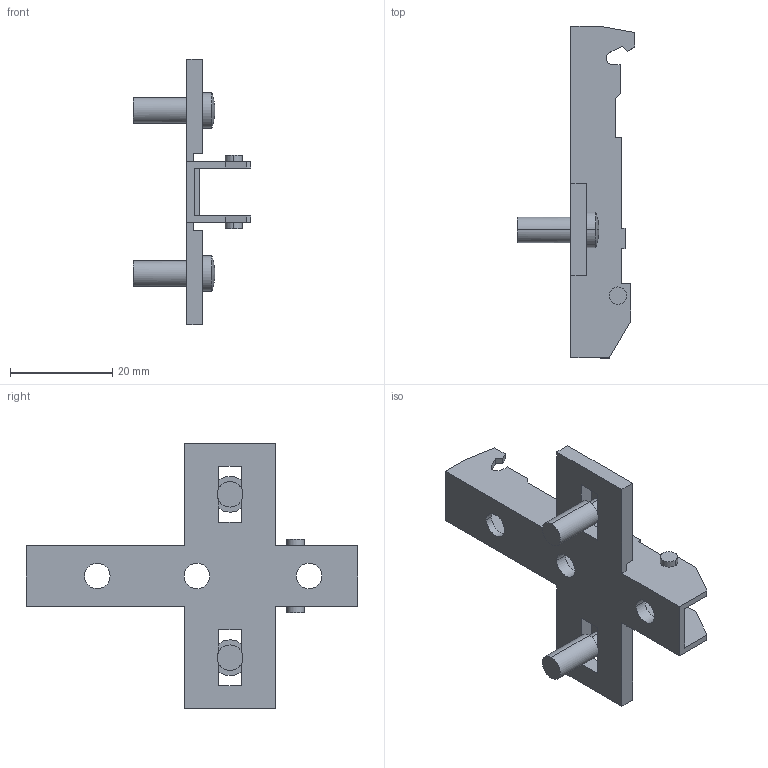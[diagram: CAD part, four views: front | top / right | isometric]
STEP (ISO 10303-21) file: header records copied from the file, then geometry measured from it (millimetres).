
FILE_DESCRIPTION (( 'STEP AP214' ), '1' );
FILE_NAME ('Eco Kreuzmontageplatte LR37_32_Dübel 5mm_lang_H02.step', '2010-11-18T10:07:34', ( 'grass' ), ( '' ), 'SwSTEP 2.0', 'SolidWorks 2010', '' );
FILE_SCHEMA (( 'AUTOMOTIVE_DESIGN' ));
Length unit declared in the file: millimetre
Products named in the file (1): Eco Kreuzmontageplatte LR37_32_Dübel 5mm_lang_H02
Bounding box: 23 x 65 x 52 mm (x, y, z)
Volume: 5011.5 mm3; surface area: 6427.1 mm2
Topology: 1 solids, 1 shells, 104 faces, 306 edges, 198 vertices
Faces by surface type: plane 76, cylinder 24, sphere 4
Entity records: 3512 total; most frequent: ORIENTED_EDGE 612, CARTESIAN_POINT 609, DIRECTION 584, EDGE_CURVE 306, VECTOR 238, LINE 238, VERTEX_POINT 198, AXIS2_PLACEMENT_3D 173
